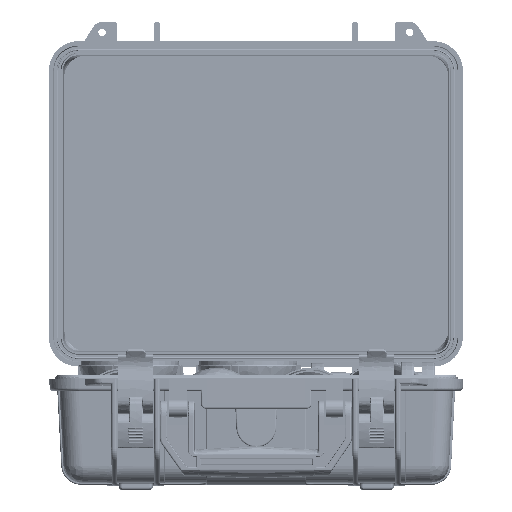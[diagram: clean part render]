
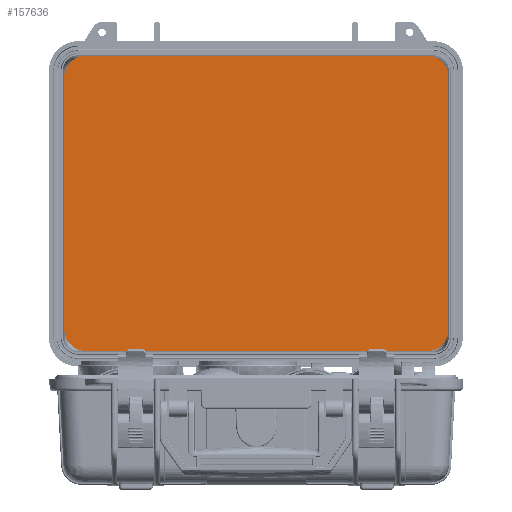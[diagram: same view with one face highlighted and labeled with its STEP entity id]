
A CAD part, front view. The second image highlights one B-rep face of the part: STEP entity #157636.
In plain terms, the highlighted planar face has unit normal (0, -1, 0.001) as drawn and (0, 0, 1) by its records, which use the part's own axes.
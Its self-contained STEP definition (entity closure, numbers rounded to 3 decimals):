
#157172 = EDGE_CURVE('',#157173,#157175,#157177,.T.);
#157173 = VERTEX_POINT('',#157174);
#157174 = CARTESIAN_POINT('',(-130.,85.,15.));
#157175 = VERTEX_POINT('',#157176);
#157176 = CARTESIAN_POINT('',(-130.,-85.,15.));
#157177 = LINE('',#157178,#157179);
#157178 = CARTESIAN_POINT('',(-130.,0.,15.));
#157179 = VECTOR('',#157180,1.);
#157180 = DIRECTION('',(0.,-1.,0.));
#157215 = VERTEX_POINT('',#157216);
#157216 = CARTESIAN_POINT('',(115.,-100.,15.));
#157222 = EDGE_CURVE('',#157223,#157215,#157225,.T.);
#157223 = VERTEX_POINT('',#157224);
#157224 = CARTESIAN_POINT('',(-115.,-100.,15.));
#157225 = LINE('',#157226,#157227);
#157226 = CARTESIAN_POINT('',(0.,-100.,15.));
#157227 = VECTOR('',#157228,1.);
#157228 = DIRECTION('',(1.,0.,0.));
#157252 = EDGE_CURVE('',#157253,#157255,#157257,.T.);
#157253 = VERTEX_POINT('',#157254);
#157254 = CARTESIAN_POINT('',(130.,-85.,15.));
#157255 = VERTEX_POINT('',#157256);
#157256 = CARTESIAN_POINT('',(130.,85.,15.));
#157257 = LINE('',#157258,#157259);
#157258 = CARTESIAN_POINT('',(130.,-85.,15.));
#157259 = VECTOR('',#157260,1.);
#157260 = DIRECTION('',(0.,1.,0.));
#157292 = EDGE_CURVE('',#157293,#157295,#157297,.T.);
#157293 = VERTEX_POINT('',#157294);
#157294 = CARTESIAN_POINT('',(115.,100.,15.));
#157295 = VERTEX_POINT('',#157296);
#157296 = CARTESIAN_POINT('',(-115.,100.,15.));
#157297 = LINE('',#157298,#157299);
#157298 = CARTESIAN_POINT('',(115.,100.,15.));
#157299 = VECTOR('',#157300,1.);
#157300 = DIRECTION('',(-1.,0.,0.));
#157333 = EDGE_CURVE('',#157215,#157253,#157334,.T.);
#157334 = CIRCLE('',#157335,15.);
#157335 = AXIS2_PLACEMENT_3D('',#157336,#157337,#157338);
#157336 = CARTESIAN_POINT('',(115.,-85.,15.));
#157337 = DIRECTION('',(0.,0.,1.));
#157338 = DIRECTION('',(1.,0.,-0.));
#157357 = EDGE_CURVE('',#157295,#157173,#157358,.T.);
#157358 = CIRCLE('',#157359,15.);
#157359 = AXIS2_PLACEMENT_3D('',#157360,#157361,#157362);
#157360 = CARTESIAN_POINT('',(-115.,85.,15.));
#157361 = DIRECTION('',(0.,0.,1.));
#157362 = DIRECTION('',(1.,0.,-0.));
#157381 = EDGE_CURVE('',#157255,#157293,#157382,.T.);
#157382 = CIRCLE('',#157383,15.);
#157383 = AXIS2_PLACEMENT_3D('',#157384,#157385,#157386);
#157384 = CARTESIAN_POINT('',(115.,85.,15.));
#157385 = DIRECTION('',(0.,0.,1.));
#157386 = DIRECTION('',(1.,0.,-0.));
#157405 = EDGE_CURVE('',#157175,#157223,#157406,.T.);
#157406 = CIRCLE('',#157407,15.);
#157407 = AXIS2_PLACEMENT_3D('',#157408,#157409,#157410);
#157408 = CARTESIAN_POINT('',(-115.,-85.,15.));
#157409 = DIRECTION('',(-0.,0.,1.));
#157410 = DIRECTION('',(1.,0.,0.));
#157636 = ADVANCED_FACE('',(#157637),#157647,.T.);
#157637 = FACE_BOUND('',#157638,.T.);
#157638 = EDGE_LOOP('',(#157639,#157640,#157641,#157642,#157643,#157644,
    #157645,#157646));
#157639 = ORIENTED_EDGE('',*,*,#157222,.T.);
#157640 = ORIENTED_EDGE('',*,*,#157333,.T.);
#157641 = ORIENTED_EDGE('',*,*,#157252,.T.);
#157642 = ORIENTED_EDGE('',*,*,#157381,.T.);
#157643 = ORIENTED_EDGE('',*,*,#157292,.T.);
#157644 = ORIENTED_EDGE('',*,*,#157357,.T.);
#157645 = ORIENTED_EDGE('',*,*,#157172,.T.);
#157646 = ORIENTED_EDGE('',*,*,#157405,.T.);
#157647 = PLANE('',#157648);
#157648 = AXIS2_PLACEMENT_3D('',#157649,#157650,#157651);
#157649 = CARTESIAN_POINT('',(0.,0.,15.));
#157650 = DIRECTION('',(-0.,0.,1.));
#157651 = DIRECTION('',(1.,0.,0.));
